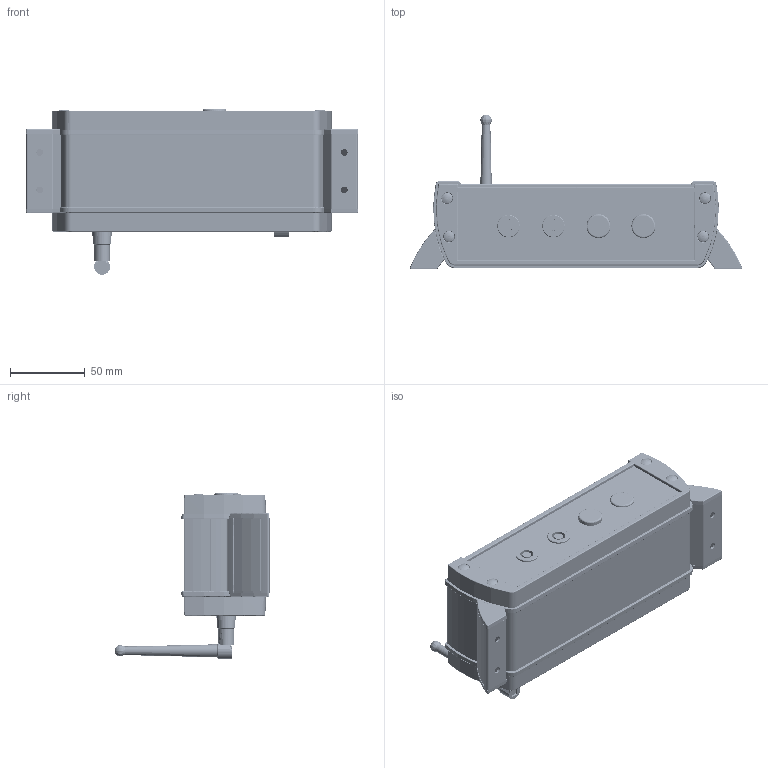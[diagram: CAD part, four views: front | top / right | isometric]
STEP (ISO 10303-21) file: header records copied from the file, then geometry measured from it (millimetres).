
FILE_DESCRIPTION((''),'2;1');
FILE_NAME('14075955_DATENBLATT_W_03784393_ASM','2015-06-23T',('oettinwe'),(''),'PRO/ENGINEER BY PARAMETRIC TECHNOLOGY CORPORATION, 2013230','PRO/ENGINEER BY PARAMETRIC TECHNOLOGY CORPORATION, 2013230','');
FILE_SCHEMA(('AUTOMOTIVE_DESIGN { 1 0 10303 214 1 1 1 1 }'));
Products named in the file (37): CT1607________________02988578; CT1608________________02988582; 14075739______________03109472; SHR_Z_KT_30X18_WN_515_02973714; AS_1850_DI_1009696_3D_02973715; SCHRAUBABDECKUNGEN_10_02973716; ASD_1850_HINTEN_______03032069_ASM; CT1586________________02973711_ASM; 14075737______________03109464; ASD_1850_VORNE________03032085_ASM; CT1666________________03032445_ASM; CT1598________________02984233; _09_0416_00_05_________983450; CT1610________________02988628; CT1623________________02999719; 14075774______________03109763; CT1647________________03021676; CT1558________________02961411; CT1640________________03021272; CT1641________________03021321; CT1643________________03021369; CT1644________________03021380; CT1662________________03031354; CT1700________________03049953; CT1645________________03021393_ASM; 2359894__M_2_5_X_10__1_566368; CT1650________________03021924; CT1649________________03021949_ASM; 0033375; 0540145________________539599; 1009844_3D____________03784350; 1009845_3D____________03784352; 1009853_3D____________03784356; 94742100_AS_0050-0100_03784347_ASM; CT1609________________02988588; CT2376________________03784346_ASM; 14075955_DATENBLATT_W_03784393_ASM
Assembly tree (80 placements, depth 4):
  14075955_DATENBLATT_W_03784393_ASM
    CT1607________________02988578
    CT1608________________02988582
    CT1586________________02973711_ASM
      ASD_1850_HINTEN_______03032069_ASM
        14075739______________03109472
        SHR_Z_KT_30X18_WN_515_02973714  x4
        AS_1850_DI_1009696_3D_02973715
        SCHRAUBABDECKUNGEN_10_02973716  x4
    CT1666________________03032445_ASM
      ASD_1850_VORNE________03032085_ASM
        14075737______________03109464
        SHR_Z_KT_30X18_WN_515_02973714  x4
        AS_1850_DI_1009696_3D_02973715
        SCHRAUBABDECKUNGEN_10_02973716  x4
    CT1598________________02984233
    _09_0416_00_05_________983450  x6
    CT1610________________02988628
    CT1623________________02999719  x2
    14075774______________03109763
    CT1647________________03021676  x4
    CT1645________________03021393_ASM
      CT1558________________02961411
      CT1640________________03021272  x3
      CT1641________________03021321  x3
      CT1643________________03021369
      CT1644________________03021380  x2
      CT1662________________03031354
      CT1700________________03049953
    2359894__M_2_5_X_10__1_566368  x4
    CT1649________________03021949_ASM
      CT1650________________03021924
      CT1643________________03021369  x2
    0033375  x4
    0540145________________539599  x4
    CT2376________________03784346_ASM
      94742100_AS_0050-0100_03784347_ASM
        1009844_3D____________03784350  x2
        1009845_3D____________03784352  x2
        1009853_3D____________03784356  x2
      CT1609________________02988588  x2
Bounding box: 221.45 x 103.41 x 110.4 mm (x, y, z)
Volume: 183673.6 mm3; surface area: 251063.1 mm2
Topology: 70 solids, 101 shells, 6628 faces, 18185 edges, 11844 vertices
Faces by surface type: bspline 6628
Entity records: 290323 total; most frequent: CARTESIAN_POINT 170647, ORIENTED_EDGE 18142, DIRECTION 9846, PRESENTATION_STYLE_ASSIGNMENT 9835, STYLED_ITEM 9649, CURVE_STYLE 9125, EDGE_CURVE 9125, VERTEX_POINT 5980
